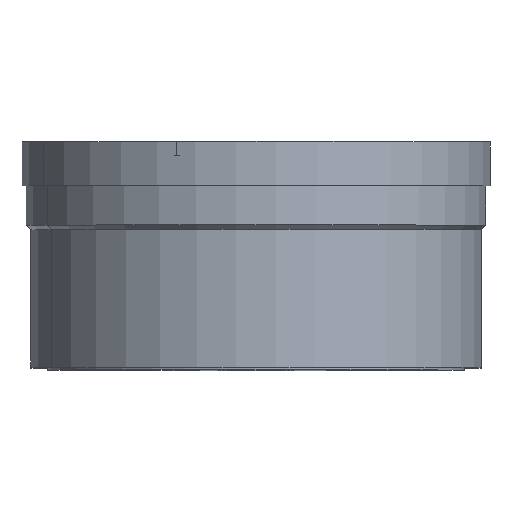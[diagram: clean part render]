
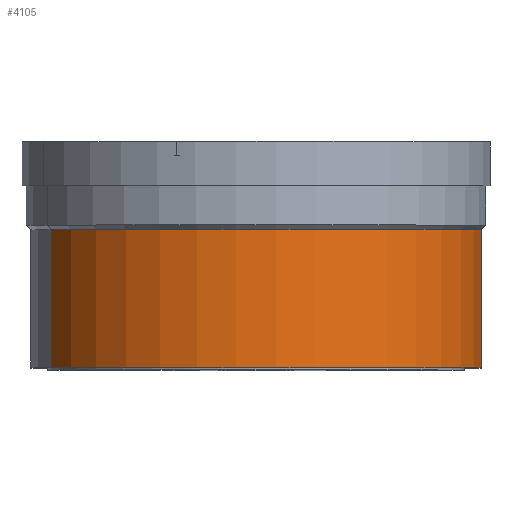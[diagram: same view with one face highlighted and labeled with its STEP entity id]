
A CAD part, top view. The second image highlights one B-rep face of the part: STEP entity #4105.
In plain terms, the highlighted cylindrical face has radius 51.5 mm (diameter 103 mm), a partial arc.
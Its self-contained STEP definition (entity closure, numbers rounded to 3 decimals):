
#432=CARTESIAN_POINT('',(0.,-3.,0.));
#433=DIRECTION('',(0.,1.,0.));
#434=DIRECTION('',(-0.906,0.,0.423));
#435=AXIS2_PLACEMENT_3D('',#432,#433,#434);
#437=DIRECTION('',(0.,-1.,0.));
#438=VECTOR('',#437,31.5);
#439=CARTESIAN_POINT('',(-46.675,-3.,21.765));
#440=LINE('',#439,#438);
#441=DIRECTION('',(0.,1.,0.));
#442=VECTOR('',#441,31.5);
#443=CARTESIAN_POINT('',(46.675,-34.5,-21.765));
#444=LINE('',#443,#442);
#455=CARTESIAN_POINT('',(0.,-34.5,0.));
#456=DIRECTION('',(0.,1.,0.));
#457=DIRECTION('',(-0.906,0.,0.423));
#458=AXIS2_PLACEMENT_3D('',#455,#456,#457);
#3093=CARTESIAN_POINT('',(-46.675,-3.,
21.765));
#3095=VERTEX_POINT('',#3093);
#3098=CARTESIAN_POINT('',(46.675,-3.,
-21.765));
#3100=VERTEX_POINT('',#3098);
#3101=CARTESIAN_POINT('',(-46.675,-34.5,21.765));
#3102=VERTEX_POINT('',#3101);
#3103=CARTESIAN_POINT('',(46.675,-34.5,-21.765));
#3104=VERTEX_POINT('',#3103);
#4091=CARTESIAN_POINT('',(0.,-35.13,0.));
#4092=DIRECTION('',(0.,1.,0.));
#4093=DIRECTION('',(0.906,0.,-0.423));
#4094=AXIS2_PLACEMENT_3D('',#4091,#4092,#4093);
#4095=CYLINDRICAL_SURFACE('',#4094,51.5);
#4097=ORIENTED_EDGE('',*,*,#4096,.F.);
#4098=ORIENTED_EDGE('',*,*,#4086,.T.);
#4100=ORIENTED_EDGE('',*,*,#4099,.F.);
#4102=ORIENTED_EDGE('',*,*,#4101,.F.);
#4103=EDGE_LOOP('',(#4097,#4098,#4100,#4102));
#4104=FACE_OUTER_BOUND('',#4103,.F.);
#436=CIRCLE('',#435,51.5);
#459=CIRCLE('',#458,51.5);
#4086=EDGE_CURVE('',#3095,#3100,#436,.T.);
#4096=EDGE_CURVE('',#3095,#3102,#440,.T.);
#4099=EDGE_CURVE('',#3104,#3100,#444,.T.);
#4101=EDGE_CURVE('',#3102,#3104,#459,.T.);
#4105=ADVANCED_FACE('',(#4104),#4095,.T.);
